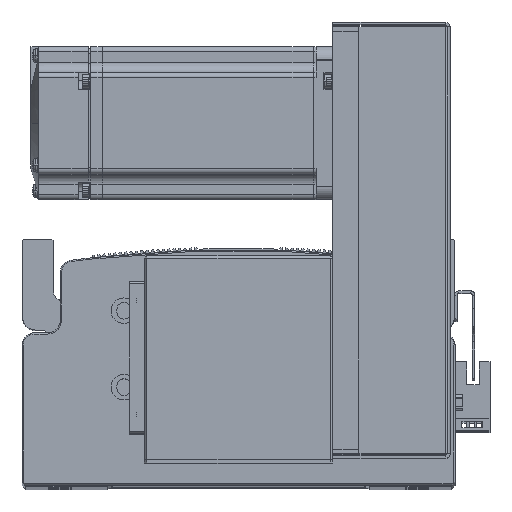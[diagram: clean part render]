
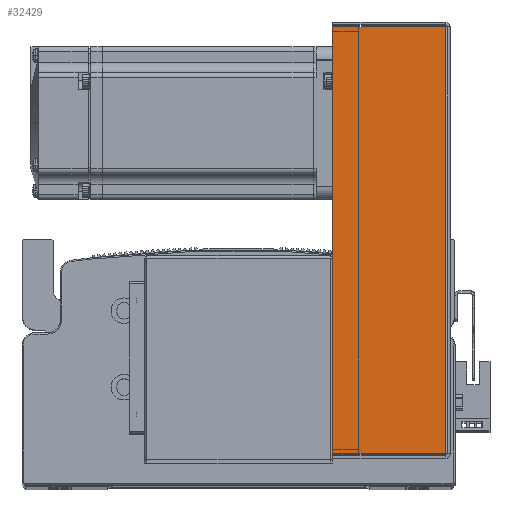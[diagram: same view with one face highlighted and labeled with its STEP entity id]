
A CAD part, top view. The second image highlights one B-rep face of the part: STEP entity #32429.
In plain terms, the highlighted planar face has unit normal (0, 0, 1).
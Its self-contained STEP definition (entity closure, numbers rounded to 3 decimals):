
#7943 = EDGE_LOOP ( 'NONE', ( #73704, #73904, #73908, #73876 ) ) ;
#9034 = VERTEX_POINT ( 'NONE', #77396 ) ;
#9112 = VERTEX_POINT ( 'NONE', #75488 ) ;
#9167 = VERTEX_POINT ( 'NONE', #75481 ) ;
#9235 = VERTEX_POINT ( 'NONE', #75692 ) ;
#22827 = CARTESIAN_POINT ( 'NONE',  ( 83.793, 0., 40.5 ) ) ;
#22829 = DIRECTION ( 'NONE',  ( 0., 1., 0. ) ) ;
#24768 = VECTOR ( 'NONE', #22829, 1000. ) ;
#24875 = LINE ( 'NONE', #22827, #24768 ) ;
#25017 = LINE ( 'NONE', #34844, #25042 ) ;
#25032 = LINE ( 'NONE', #34860, #25036 ) ;
#25034 = VECTOR ( 'NONE', #34814, 1000. ) ;
#25036 = VECTOR ( 'NONE', #34825, 1000. ) ;
#25042 = VECTOR ( 'NONE', #34845, 1000. ) ;
#25048 = LINE ( 'NONE', #34817, #25034 ) ;
#32429 = ADVANCED_FACE ( 'NONE', ( #54069 ), #53079, .F. ) ;
#34814 = DIRECTION ( 'NONE',  ( 0., 1., 0. ) ) ;
#34817 = CARTESIAN_POINT ( 'NONE',  ( -83.793, 0., 40.5 ) ) ;
#34825 = DIRECTION ( 'NONE',  ( -1., 0., 0. ) ) ;
#34844 = CARTESIAN_POINT ( 'NONE',  ( 0., 0.737, 40.5 ) ) ;
#34845 = DIRECTION ( 'NONE',  ( -1., 0., 0. ) ) ;
#34860 = CARTESIAN_POINT ( 'NONE',  ( -84.5, 45., 40.5 ) ) ;
#46785 = EDGE_CURVE ( 'NONE', #9167, #9112, #24875, .T. ) ;
#46848 = EDGE_CURVE ( 'NONE', #9167, #9034, #25017, .T. ) ;
#46850 = EDGE_CURVE ( 'NONE', #9034, #9235, #25048, .T. ) ;
#46855 = EDGE_CURVE ( 'NONE', #9112, #9235, #25032, .T. ) ;
#53074 = DIRECTION ( 'NONE',  ( 0., 0., -1. ) ) ;
#53079 = PLANE ( 'NONE',  #57246 ) ;
#53097 = CARTESIAN_POINT ( 'NONE',  ( 0., 0., 40.5 ) ) ;
#53108 = DIRECTION ( 'NONE',  ( -1., 0., 0. ) ) ;
#54069 = FACE_OUTER_BOUND ( 'NONE', #7943, .T. ) ;
#57246 = AXIS2_PLACEMENT_3D ( 'NONE', #53097, #53074, #53108 ) ;
#73704 = ORIENTED_EDGE ( 'NONE', *, *, #46848, .F. ) ;
#73876 = ORIENTED_EDGE ( 'NONE', *, *, #46850, .F. ) ;
#73904 = ORIENTED_EDGE ( 'NONE', *, *, #46785, .T. ) ;
#73908 = ORIENTED_EDGE ( 'NONE', *, *, #46855, .T. ) ;
#75481 = CARTESIAN_POINT ( 'NONE',  ( 83.793, 0.737, 40.5 ) ) ;
#75488 = CARTESIAN_POINT ( 'NONE',  ( 83.793, 45., 40.5 ) ) ;
#75692 = CARTESIAN_POINT ( 'NONE',  ( -83.793, 45., 40.5 ) ) ;
#77396 = CARTESIAN_POINT ( 'NONE',  ( -83.793, 0.737, 40.5 ) ) ;
